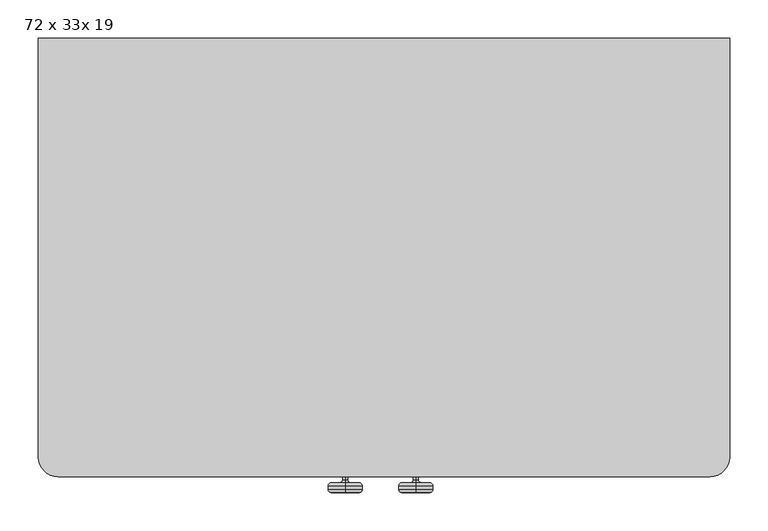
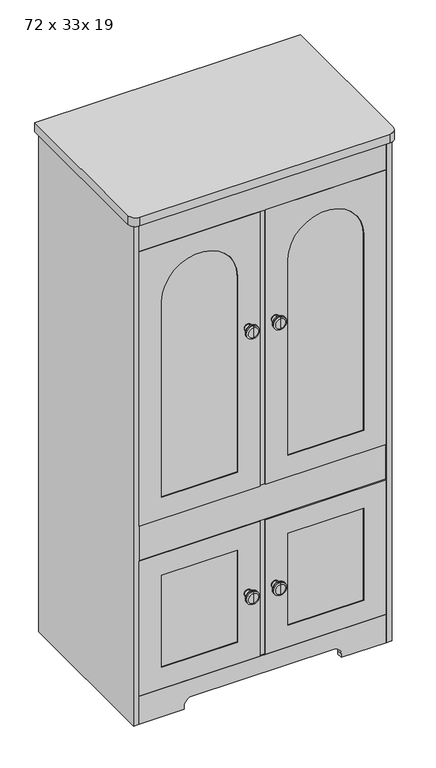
"""IFC4 building model written with IfcOpenShell, lengths in millimetres: furniture geometry, Simple_Armoire_7820 : 72 x 33x 19."""

from ifc_helpers import new_model, si_unit, point, frame, frame_2d, origin, origin_with_axes, place, context, project, spatial, polyline, circle_curve, ellipse_curve, trimmed, segment, composite_curve, outline, extrude, source, transform, mapped, element, save
from ifc_brep_helpers import plane_surface, cylinder_surface, revolved_surface, advanced_brep


def furniture_72_x_33x_19_4a222edf(model_context):
    return source(origin(), model_context, "Body", "SolidModel", [
        extrude(outline(polyline([(-343.02714, -542.925), (-85.5989531, -542.925), (-85.5989531, -555.625), (-343.02714, -555.625), (-343.02714, -542.925)])), frame((0.0, 0.0, 177.8), z_axis=(0.0, 0.0, 1.0), x_axis=(1.0, 0.0, 0.0)), (0.0, 0.0, 1.0), 330.2),
        extrude(outline(polyline([(85.5989531, -542.925), (342.77286, -542.925), (342.77286, -555.625), (85.5989531, -555.625), (85.5989531, -542.925)])), frame((0.0, 0.0, 177.8), z_axis=(0.0, 0.0, 1.0), x_axis=(1.0, 0.0, 0.0)), (0.0, 0.0, 1.0), 330.2),
        extrude(outline(composite_curve([segment(polyline([(787.4, -85.5989531), (1490.6625, -85.5989531)]), True, "CONTINUOUS"), segment(trimmed(circle_curve(frame_2d((1490.6625, -214.3130466)), 128.7140935), [point((1490.6625, -85.5989531))], [point((1490.6625, -343.02714))], False, "CARTESIAN"), True, "CONTINUOUS"), segment(polyline([(1490.6625, -343.02714), (787.4, -343.02714), (787.4, -85.5989531)]), True, "CONTINUOUS")], self_intersect=False)), frame((0.0, -555.625, 0.0), z_axis=(0.0, 1.0, 0.0), x_axis=(0.0, 0.0, 1.0)), (0.0, 0.0, 1.0), 12.7),
        extrude(outline(composite_curve([segment(polyline([(787.4, 342.77286), (1490.6625, 342.77286)]), True, "CONTINUOUS"), segment(trimmed(circle_curve(frame_2d((1490.6625, 214.1859065)), 128.5869534), [point((1490.6625, 342.77286))], [point((1490.6625, 85.5989531))], False, "CARTESIAN"), True, "CONTINUOUS"), segment(polyline([(1490.6625, 85.5989531), (787.4, 85.5989531), (787.4, 342.77286)]), True, "CONTINUOUS")], self_intersect=False)), frame((0.0, -555.625, 0.0), z_axis=(0.0, 1.0, 0.0), x_axis=(0.0, 0.0, 1.0)), (0.0, 0.0, 1.0), 12.7),
        advanced_brep(
        [(41.4010469, -566.7481306, 334.16875), (41.4010469, -566.7481306, 351.63125), (41.4010469, -562.7793806, 355.6), (41.4010469, -562.7793806, 330.2), (41.4010469, -566.7481306, 335.75625), (41.4010469, -566.7481306, 350.04375), (41.4010469, -570.7168806, 339.725), (41.4010469, -570.7168806, 346.075), (41.4010469, -575.4793806, 339.725), (41.4010469, -575.4793806, 346.075), (41.4010469, -579.4481306, 335.75625), (41.4010469, -579.4481306, 350.04375), (41.4010469, -579.4481306, 324.64375), (41.4010469, -579.4481306, 361.15625), (41.4010469, -583.4168806, 320.675), (41.4010469, -583.4168806, 365.125), (41.4010469, -588.1793806, 320.675), (41.4010469, -588.1793806, 365.125), (41.4010469, -592.1481306, 324.64375), (41.4010469, -592.1481306, 361.15625), (41.4010469, -592.1481306, 342.9), (41.4010469, -558.8, 330.2), (41.4010469, -558.8, 355.6), (41.4010469, -558.8, 342.9)],
        [
            (0, 1, circle_curve(frame((41.4010469, -566.7481306, 342.9), z_axis=(0.0, 1.0, 0.0), x_axis=(0.0, 0.0, 1.0)), 8.73125)),
            (1, 2, circle_curve(frame((41.4010469, -562.7793806, 351.63125), z_axis=(-1.0, 0.0, 0.0), x_axis=(0.0, 0.0, 1.0)), 3.96875)),
            (2, 3, circle_curve(frame((41.4010469, -562.7793806, 342.9), z_axis=(0.0, -1.0, 0.0), x_axis=(0.0, 0.0, 1.0)), 12.7)),
            (3, 0, circle_curve(frame((41.4010469, -562.7793806, 334.16875), z_axis=(-1.0, 0.0, 0.0), x_axis=(0.0, 0.0, -1.0)), 3.96875)),
            (1, 0, circle_curve(frame((41.4010469, -566.7481306, 342.9), z_axis=(0.0, 1.0, 0.0), x_axis=(0.0, 0.0, 1.0)), 8.73125)),
            (3, 2, circle_curve(frame((41.4010469, -562.7793806, 342.9), z_axis=(0.0, -1.0, 0.0), x_axis=(0.0, 0.0, 1.0)), 12.7)),
            (4, 5, circle_curve(frame((41.4010469, -566.7481306, 342.9), z_axis=(0.0, 1.0, 0.0), x_axis=(0.0, 0.0, 1.0)), 7.14375)),
            (5, 1),
            (0, 4),
            (5, 4, circle_curve(frame((41.4010469, -566.7481306, 342.9), z_axis=(0.0, 1.0, 0.0), x_axis=(0.0, 0.0, 1.0)), 7.14375)),
            (6, 7, circle_curve(frame((41.4010469, -570.7168806, 342.9), z_axis=(0.0, 1.0, 0.0), x_axis=(0.0, 0.0, 1.0)), 3.175)),
            (7, 5, circle_curve(frame((41.4010469, -570.7168806, 350.04375), z_axis=(1.0, 0.0, 0.0), x_axis=(0.0, 0.0, 1.0)), 3.96875)),
            (4, 6, circle_curve(frame((41.4010469, -570.7168806, 335.75625), z_axis=(1.0, 0.0, 0.0), x_axis=(0.0, 0.0, -1.0)), 3.96875)),
            (7, 6, circle_curve(frame((41.4010469, -570.7168806, 342.9), z_axis=(0.0, 1.0, 0.0), x_axis=(0.0, 0.0, 1.0)), 3.175)),
            (8, 9, circle_curve(frame((41.4010469, -575.4793806, 342.9), z_axis=(0.0, 1.0, 0.0), x_axis=(0.0, 0.0, 1.0)), 3.175)),
            (9, 7),
            (6, 8),
            (9, 8, circle_curve(frame((41.4010469, -575.4793806, 342.9), z_axis=(0.0, 1.0, 0.0), x_axis=(0.0, 0.0, 1.0)), 3.175)),
            (10, 11, circle_curve(frame((41.4010469, -579.4481306, 342.9), z_axis=(0.0, 1.0, 0.0), x_axis=(0.0, 0.0, 1.0)), 7.14375)),
            (11, 9, circle_curve(frame((41.4010469, -575.4793806, 350.04375), z_axis=(1.0, 0.0, 0.0), x_axis=(0.0, 0.0, 1.0)), 3.96875)),
            (8, 10, circle_curve(frame((41.4010469, -575.4793806, 335.75625), z_axis=(1.0, 0.0, 0.0), x_axis=(0.0, 0.0, -1.0)), 3.96875)),
            (11, 10, circle_curve(frame((41.4010469, -579.4481306, 342.9), z_axis=(0.0, 1.0, 0.0), x_axis=(0.0, 0.0, 1.0)), 7.14375)),
            (12, 13, circle_curve(frame((41.4010469, -579.4481306, 342.9), z_axis=(0.0, 1.0, 0.0), x_axis=(0.0, 0.0, 1.0)), 18.25625)),
            (13, 11),
            (10, 12),
            (13, 12, circle_curve(frame((41.4010469, -579.4481306, 342.9), z_axis=(0.0, 1.0, 0.0), x_axis=(0.0, 0.0, 1.0)), 18.25625)),
            (14, 15, circle_curve(frame((41.4010469, -583.4168806, 342.9), z_axis=(0.0, 1.0, 0.0), x_axis=(0.0, 0.0, 1.0)), 22.225)),
            (15, 13, circle_curve(frame((41.4010469, -583.4168806, 361.15625), z_axis=(-1.0, 0.0, 0.0), x_axis=(0.0, 0.0, 1.0)), 3.96875)),
            (12, 14, circle_curve(frame((41.4010469, -583.4168806, 324.64375), z_axis=(-1.0, 0.0, 0.0), x_axis=(0.0, 0.0, -1.0)), 3.96875)),
            (15, 14, circle_curve(frame((41.4010469, -583.4168806, 342.9), z_axis=(0.0, 1.0, 0.0), x_axis=(0.0, 0.0, 1.0)), 22.225)),
            (16, 17, circle_curve(frame((41.4010469, -588.1793806, 342.9), z_axis=(0.0, 1.0, 0.0), x_axis=(0.0, 0.0, 1.0)), 22.225)),
            (17, 15),
            (14, 16),
            (17, 16, circle_curve(frame((41.4010469, -588.1793806, 342.9), z_axis=(0.0, 1.0, 0.0), x_axis=(0.0, 0.0, 1.0)), 22.225)),
            (18, 19, circle_curve(frame((41.4010469, -592.1481306, 342.9), z_axis=(0.0, 1.0, 0.0), x_axis=(0.0, 0.0, 1.0)), 18.25625)),
            (19, 17, circle_curve(frame((41.4010469, -588.1793806, 361.15625), z_axis=(-1.0, 0.0, 0.0), x_axis=(0.0, 0.0, 1.0)), 3.96875)),
            (16, 18, circle_curve(frame((41.4010469, -588.1793806, 324.64375), z_axis=(-1.0, 0.0, 0.0), x_axis=(0.0, 0.0, -1.0)), 3.96875)),
            (19, 18, circle_curve(frame((41.4010469, -592.1481306, 342.9), z_axis=(0.0, 1.0, 0.0), x_axis=(0.0, 0.0, 1.0)), 18.25625)),
            (20, 19),
            (18, 20),
            (21, 22, circle_curve(frame((41.4010469, -558.8, 342.9), z_axis=(0.0, 1.0, 0.0), x_axis=(0.0, 0.0, 1.0)), 12.7)),
            (22, 23),
            (23, 21),
            (22, 21, circle_curve(frame((41.4010469, -558.8, 342.9), z_axis=(0.0, 1.0, 0.0), x_axis=(0.0, 0.0, 1.0)), 12.7)),
            (2, 22),
            (21, 3),
        ],
        [
            revolved_surface(trimmed(ellipse_curve(frame((41.4010469, -562.7793806, 351.63125), z_axis=(1.0, 0.0, 0.0), x_axis=(0.0, 0.0, 1.0)), 3.96875, 3.96875), [point((41.4010469, -562.7793806, 355.6))], [point((41.4010469, -566.7481306, 351.63125))], True, "CARTESIAN"), (41.4010469, -558.8, 342.9), (0.0, -1.0, 0.0)),
            plane_surface(frame((41.4010469, -566.7481306, 342.9), z_axis=(0.0, -1.0, 0.0), x_axis=(0.0, 0.0, 1.0))),
            revolved_surface(trimmed(ellipse_curve(frame((41.4010469, -570.7168806, 350.04375), z_axis=(-1.0, 0.0, 0.0), x_axis=(0.0, 0.0, 1.0)), 3.96875, 3.96875), [point((41.4010469, -566.7481306, 350.04375))], [point((41.4010469, -570.7168806, 346.075))], True, "CARTESIAN"), (41.4010469, -558.8, 342.9), (0.0, -1.0, 0.0)),
            cylinder_surface(frame((41.4010469, -558.8, 342.9), z_axis=(0.0, -1.0, 0.0), x_axis=(0.0, 0.0, 1.0)), 3.175),
            revolved_surface(trimmed(ellipse_curve(frame((41.4010469, -575.4793806, 350.04375), z_axis=(-1.0, 0.0, 0.0), x_axis=(0.0, 0.0, 1.0)), 3.96875, 3.96875), [point((41.4010469, -575.4793806, 346.075))], [point((41.4010469, -579.4481306, 350.04375))], True, "CARTESIAN"), (41.4010469, -558.8, 342.9), (0.0, -1.0, 0.0)),
            plane_surface(frame((41.4010469, -579.4481306, 342.9), z_axis=(0.0, 1.0, 0.0), x_axis=(0.0, 0.0, 1.0))),
            revolved_surface(trimmed(ellipse_curve(frame((41.4010469, -583.4168806, 361.15625), z_axis=(1.0, 0.0, 0.0), x_axis=(0.0, 0.0, 1.0)), 3.96875, 3.96875), [point((41.4010469, -579.4481306, 361.15625))], [point((41.4010469, -583.4168806, 365.125))], True, "CARTESIAN"), (41.4010469, -558.8, 342.9), (0.0, -1.0, 0.0)),
            cylinder_surface(frame((41.4010469, -558.8, 342.9), z_axis=(0.0, -1.0, 0.0), x_axis=(0.0, 0.0, 1.0)), 22.225),
            revolved_surface(trimmed(ellipse_curve(frame((41.4010469, -588.1793806, 361.15625), z_axis=(1.0, 0.0, 0.0), x_axis=(0.0, 0.0, 1.0)), 3.96875, 3.96875), [point((41.4010469, -588.1793806, 365.125))], [point((41.4010469, -592.1481306, 361.15625))], True, "CARTESIAN"), (41.4010469, -558.8, 342.9), (0.0, -1.0, 0.0)),
            plane_surface(frame((41.4010469, -592.1481306, 342.9), z_axis=(0.0, -1.0, 0.0), x_axis=(0.0, 0.0, 1.0))),
            plane_surface(frame((41.4010469, -558.8, 342.9), z_axis=(0.0, 1.0, 0.0), x_axis=(0.0, 0.0, 1.0))),
            cylinder_surface(frame((41.4010469, -558.8, 342.9), z_axis=(0.0, -1.0, 0.0), x_axis=(0.0, 0.0, 1.0)), 12.7),
        ],
        [
            (0, [[1, 2, 3, 4]]),
            (0, [[5, -4, 6, -2]]),
            (1, [[7, 8, -1, 9]]),
            (1, [[10, -9, -5, -8]]),
            (2, [[11, 12, -7, 13]]),
            (2, [[14, -13, -10, -12]]),
            (3, [[15, 16, -11, 17]]),
            (3, [[18, -17, -14, -16]]),
            (4, [[19, 20, -15, 21]]),
            (4, [[22, -21, -18, -20]]),
            (5, [[23, 24, -19, 25]]),
            (5, [[26, -25, -22, -24]]),
            (6, [[27, 28, -23, 29]]),
            (6, [[30, -29, -26, -28]]),
            (7, [[31, 32, -27, 33]]),
            (7, [[34, -33, -30, -32]]),
            (8, [[35, 36, -31, 37]]),
            (8, [[38, -37, -34, -36]]),
            (9, [[39, -35, 40]]),
            (9, [[-40, -38, -39]]),
            (10, [[41, 42, 43]]),
            (10, [[44, -43, -42]]),
            (11, [[-3, 45, -41, 46]]),
            (11, [[-6, -46, -44, -45]]),
        ],
    ),
        advanced_brep(
        [(-50.8, -566.7481306, 334.16875), (-50.8, -566.7481306, 351.63125), (-50.8, -562.7793806, 355.6), (-50.8, -562.7793806, 330.2), (-50.8, -566.7481306, 335.75625), (-50.8, -566.7481306, 350.04375), (-50.8, -570.7168806, 339.725), (-50.8, -570.7168806, 346.075), (-50.8, -575.4793806, 339.725), (-50.8, -575.4793806, 346.075), (-50.8, -579.4481306, 335.75625), (-50.8, -579.4481306, 350.04375), (-50.8, -579.4481306, 324.64375), (-50.8, -579.4481306, 361.15625), (-50.8, -583.4168806, 320.675), (-50.8, -583.4168806, 365.125), (-50.8, -588.1793806, 320.675), (-50.8, -588.1793806, 365.125), (-50.8, -592.1481306, 324.64375), (-50.8, -592.1481306, 361.15625), (-50.8, -592.1481306, 342.9), (-50.8, -558.8, 330.2), (-50.8, -558.8, 355.6), (-50.8, -558.8, 342.9)],
        [
            (0, 1, circle_curve(frame((-50.8, -566.7481306, 342.9), z_axis=(0.0, 1.0, 0.0), x_axis=(0.0, 0.0, 1.0)), 8.73125)),
            (1, 2, circle_curve(frame((-50.8, -562.7793806, 351.63125), z_axis=(-1.0, 0.0, 0.0), x_axis=(0.0, 0.0, 1.0)), 3.96875)),
            (2, 3, circle_curve(frame((-50.8, -562.7793806, 342.9), z_axis=(0.0, -1.0, 0.0), x_axis=(0.0, 0.0, 1.0)), 12.7)),
            (3, 0, circle_curve(frame((-50.8, -562.7793806, 334.16875), z_axis=(-1.0, 0.0, 0.0), x_axis=(0.0, 0.0, -1.0)), 3.96875)),
            (1, 0, circle_curve(frame((-50.8, -566.7481306, 342.9), z_axis=(0.0, 1.0, 0.0), x_axis=(0.0, 0.0, 1.0)), 8.73125)),
            (3, 2, circle_curve(frame((-50.8, -562.7793806, 342.9), z_axis=(0.0, -1.0, 0.0), x_axis=(0.0, 0.0, 1.0)), 12.7)),
            (4, 5, circle_curve(frame((-50.8, -566.7481306, 342.9), z_axis=(0.0, 1.0, 0.0), x_axis=(0.0, 0.0, 1.0)), 7.14375)),
            (5, 1),
            (0, 4),
            (5, 4, circle_curve(frame((-50.8, -566.7481306, 342.9), z_axis=(0.0, 1.0, 0.0), x_axis=(0.0, 0.0, 1.0)), 7.14375)),
            (6, 7, circle_curve(frame((-50.8, -570.7168806, 342.9), z_axis=(0.0, 1.0, 0.0), x_axis=(0.0, 0.0, 1.0)), 3.175)),
            (7, 5, circle_curve(frame((-50.8, -570.7168806, 350.04375), z_axis=(1.0, 0.0, 0.0), x_axis=(0.0, 0.0, 1.0)), 3.96875)),
            (4, 6, circle_curve(frame((-50.8, -570.7168806, 335.75625), z_axis=(1.0, 0.0, 0.0), x_axis=(0.0, 0.0, -1.0)), 3.96875)),
            (7, 6, circle_curve(frame((-50.8, -570.7168806, 342.9), z_axis=(0.0, 1.0, 0.0), x_axis=(0.0, 0.0, 1.0)), 3.175)),
            (8, 9, circle_curve(frame((-50.8, -575.4793806, 342.9), z_axis=(0.0, 1.0, 0.0), x_axis=(0.0, 0.0, 1.0)), 3.175)),
            (9, 7),
            (6, 8),
            (9, 8, circle_curve(frame((-50.8, -575.4793806, 342.9), z_axis=(0.0, 1.0, 0.0), x_axis=(0.0, 0.0, 1.0)), 3.175)),
            (10, 11, circle_curve(frame((-50.8, -579.4481306, 342.9), z_axis=(0.0, 1.0, 0.0), x_axis=(0.0, 0.0, 1.0)), 7.14375)),
            (11, 9, circle_curve(frame((-50.8, -575.4793806, 350.04375), z_axis=(1.0, 0.0, 0.0), x_axis=(0.0, 0.0, 1.0)), 3.96875)),
            (8, 10, circle_curve(frame((-50.8, -575.4793806, 335.75625), z_axis=(1.0, 0.0, 0.0), x_axis=(0.0, 0.0, -1.0)), 3.96875)),
            (11, 10, circle_curve(frame((-50.8, -579.4481306, 342.9), z_axis=(0.0, 1.0, 0.0), x_axis=(0.0, 0.0, 1.0)), 7.14375)),
            (12, 13, circle_curve(frame((-50.8, -579.4481306, 342.9), z_axis=(0.0, 1.0, 0.0), x_axis=(0.0, 0.0, 1.0)), 18.25625)),
            (13, 11),
            (10, 12),
            (13, 12, circle_curve(frame((-50.8, -579.4481306, 342.9), z_axis=(0.0, 1.0, 0.0), x_axis=(0.0, 0.0, 1.0)), 18.25625)),
            (14, 15, circle_curve(frame((-50.8, -583.4168806, 342.9), z_axis=(0.0, 1.0, 0.0), x_axis=(0.0, 0.0, 1.0)), 22.225)),
            (15, 13, circle_curve(frame((-50.8, -583.4168806, 361.15625), z_axis=(-1.0, 0.0, 0.0), x_axis=(0.0, 0.0, 1.0)), 3.96875)),
            (12, 14, circle_curve(frame((-50.8, -583.4168806, 324.64375), z_axis=(-1.0, 0.0, 0.0), x_axis=(0.0, 0.0, -1.0)), 3.96875)),
            (15, 14, circle_curve(frame((-50.8, -583.4168806, 342.9), z_axis=(0.0, 1.0, 0.0), x_axis=(0.0, 0.0, 1.0)), 22.225)),
            (16, 17, circle_curve(frame((-50.8, -588.1793806, 342.9), z_axis=(0.0, 1.0, 0.0), x_axis=(0.0, 0.0, 1.0)), 22.225)),
            (17, 15),
            (14, 16),
            (17, 16, circle_curve(frame((-50.8, -588.1793806, 342.9), z_axis=(0.0, 1.0, 0.0), x_axis=(0.0, 0.0, 1.0)), 22.225)),
            (18, 19, circle_curve(frame((-50.8, -592.1481306, 342.9), z_axis=(0.0, 1.0, 0.0), x_axis=(0.0, 0.0, 1.0)), 18.25625)),
            (19, 17, circle_curve(frame((-50.8, -588.1793806, 361.15625), z_axis=(-1.0, 0.0, 0.0), x_axis=(0.0, 0.0, 1.0)), 3.96875)),
            (16, 18, circle_curve(frame((-50.8, -588.1793806, 324.64375), z_axis=(-1.0, 0.0, 0.0), x_axis=(0.0, 0.0, -1.0)), 3.96875)),
            (19, 18, circle_curve(frame((-50.8, -592.1481306, 342.9), z_axis=(0.0, 1.0, 0.0), x_axis=(0.0, 0.0, 1.0)), 18.25625)),
            (20, 19),
            (18, 20),
            (21, 22, circle_curve(frame((-50.8, -558.8, 342.9), z_axis=(0.0, 1.0, 0.0), x_axis=(0.0, 0.0, 1.0)), 12.7)),
            (22, 23),
            (23, 21),
            (22, 21, circle_curve(frame((-50.8, -558.8, 342.9), z_axis=(0.0, 1.0, 0.0), x_axis=(0.0, 0.0, 1.0)), 12.7)),
            (2, 22),
            (21, 3),
        ],
        [
            revolved_surface(trimmed(ellipse_curve(frame((-50.8, -562.7793806, 351.63125), z_axis=(1.0, 0.0, 0.0), x_axis=(0.0, 0.0, 1.0)), 3.96875, 3.96875), [point((-50.8, -562.7793806, 355.6))], [point((-50.8, -566.7481306, 351.63125))], True, "CARTESIAN"), (-50.8, -558.8, 342.9), (0.0, -1.0, 0.0)),
            plane_surface(frame((-50.8, -566.7481306, 342.9), z_axis=(0.0, -1.0, 0.0), x_axis=(0.0, 0.0, 1.0))),
            revolved_surface(trimmed(ellipse_curve(frame((-50.8, -570.7168806, 350.04375), z_axis=(-1.0, 0.0, 0.0), x_axis=(0.0, 0.0, 1.0)), 3.96875, 3.96875), [point((-50.8, -566.7481306, 350.04375))], [point((-50.8, -570.7168806, 346.075))], True, "CARTESIAN"), (-50.8, -558.8, 342.9), (0.0, -1.0, 0.0)),
            cylinder_surface(frame((-50.8, -558.8, 342.9), z_axis=(0.0, -1.0, 0.0), x_axis=(0.0, 0.0, 1.0)), 3.175),
            revolved_surface(trimmed(ellipse_curve(frame((-50.8, -575.4793806, 350.04375), z_axis=(-1.0, 0.0, 0.0), x_axis=(0.0, 0.0, 1.0)), 3.96875, 3.96875), [point((-50.8, -575.4793806, 346.075))], [point((-50.8, -579.4481306, 350.04375))], True, "CARTESIAN"), (-50.8, -558.8, 342.9), (0.0, -1.0, 0.0)),
            plane_surface(frame((-50.8, -579.4481306, 342.9), z_axis=(0.0, 1.0, 0.0), x_axis=(0.0, 0.0, 1.0))),
            revolved_surface(trimmed(ellipse_curve(frame((-50.8, -583.4168806, 361.15625), z_axis=(1.0, 0.0, 0.0), x_axis=(0.0, 0.0, 1.0)), 3.96875, 3.96875), [point((-50.8, -579.4481306, 361.15625))], [point((-50.8, -583.4168806, 365.125))], True, "CARTESIAN"), (-50.8, -558.8, 342.9), (0.0, -1.0, 0.0)),
            cylinder_surface(frame((-50.8, -558.8, 342.9), z_axis=(0.0, -1.0, 0.0), x_axis=(0.0, 0.0, 1.0)), 22.225),
            revolved_surface(trimmed(ellipse_curve(frame((-50.8, -588.1793806, 361.15625), z_axis=(1.0, 0.0, 0.0), x_axis=(0.0, 0.0, 1.0)), 3.96875, 3.96875), [point((-50.8, -588.1793806, 365.125))], [point((-50.8, -592.1481306, 361.15625))], True, "CARTESIAN"), (-50.8, -558.8, 342.9), (0.0, -1.0, 0.0)),
            plane_surface(frame((-50.8, -592.1481306, 342.9), z_axis=(0.0, -1.0, 0.0), x_axis=(0.0, 0.0, 1.0))),
            plane_surface(frame((-50.8, -558.8, 342.9), z_axis=(0.0, 1.0, 0.0), x_axis=(0.0, 0.0, 1.0))),
            cylinder_surface(frame((-50.8, -558.8, 342.9), z_axis=(0.0, -1.0, 0.0), x_axis=(0.0, 0.0, 1.0)), 12.7),
        ],
        [
            (0, [[1, 2, 3, 4]]),
            (0, [[5, -4, 6, -2]]),
            (1, [[7, 8, -1, 9]]),
            (1, [[10, -9, -5, -8]]),
            (2, [[11, 12, -7, 13]]),
            (2, [[14, -13, -10, -12]]),
            (3, [[15, 16, -11, 17]]),
            (3, [[18, -17, -14, -16]]),
            (4, [[19, 20, -15, 21]]),
            (4, [[22, -21, -18, -20]]),
            (5, [[23, 24, -19, 25]]),
            (5, [[26, -25, -22, -24]]),
            (6, [[27, 28, -23, 29]]),
            (6, [[30, -29, -26, -28]]),
            (7, [[31, 32, -27, 33]]),
            (7, [[34, -33, -30, -32]]),
            (8, [[35, 36, -31, 37]]),
            (8, [[38, -37, -34, -36]]),
            (9, [[39, -35, 40]]),
            (9, [[-40, -38, -39]]),
            (10, [[41, 42, 43]]),
            (10, [[44, -43, -42]]),
            (11, [[-3, 45, -41, 46]]),
            (11, [[-6, -46, -44, -45]]),
        ],
    ),
        extrude(outline(polyline([(101.6, -9.3989531), (584.2, -9.3989531), (584.2, -419.22714), (101.6, -419.22714), (101.6, -9.3989531)]), holes=[polyline([(177.8, -85.5989531), (177.8, -343.02714), (508.0, -343.02714), (508.0, -85.5989531), (177.8, -85.5989531)])]), frame((0.0, -558.8, 0.0), z_axis=(0.0, 1.0, 0.0), x_axis=(0.0, 0.0, 1.0)), (0.0, 0.0, 1.0), 19.05),
        extrude(outline(polyline([(101.6, 418.97286), (584.2, 418.97286), (584.2, 9.3989531), (101.6, 9.3989531), (101.6, 418.97286)]), holes=[polyline([(177.8, 342.77286), (177.8, 85.5989531), (508.0, 85.5989531), (508.0, 342.77286), (177.8, 342.77286)])]), frame((0.0, -558.8, 0.0), z_axis=(0.0, 1.0, 0.0), x_axis=(0.0, 0.0, 1.0)), (0.0, 0.0, 1.0), 19.05),
        extrude(outline(polyline([(711.2, -9.3989531), (1695.45, -9.3989531), (1695.45, -419.22714), (711.2, -419.22714), (711.2, -9.3989531)]), holes=[composite_curve([segment(polyline([(787.4, -85.5989531), (787.4, -343.02714), (1490.6625, -343.02714)]), True, "CONTINUOUS"), segment(trimmed(circle_curve(frame_2d((1490.6625, -214.3130466)), 128.7140935), [point((1490.6625, -343.02714))], [point((1490.6625, -85.5989531))], True, "CARTESIAN"), True, "CONTINUOUS"), segment(polyline([(1490.6625, -85.5989531), (787.4, -85.5989531)]), True, "CONTINUOUS")], self_intersect=False)]), frame((0.0, -558.8, 0.0), z_axis=(0.0, 1.0, 0.0), x_axis=(0.0, 0.0, 1.0)), (0.0, 0.0, 1.0), 19.05),
        extrude(outline(polyline([(711.2, 418.97286), (1695.45, 418.97286), (1695.45, 9.3989531), (711.2, 9.3989531), (711.2, 418.97286)]), holes=[composite_curve([segment(polyline([(787.4, 342.77286), (787.4, 85.5989531), (1490.6625, 85.5989531)]), True, "CONTINUOUS"), segment(trimmed(circle_curve(frame_2d((1490.6625, 214.1859065)), 128.5869534), [point((1490.6625, 85.5989531))], [point((1490.6625, 342.77286))], True, "CARTESIAN"), True, "CONTINUOUS"), segment(polyline([(1490.6625, 342.77286), (787.4, 342.77286)]), True, "CONTINUOUS")], self_intersect=False)]), frame((0.0, -558.8, 0.0), z_axis=(0.0, 1.0, 0.0), x_axis=(0.0, 0.0, 1.0)), (0.0, 0.0, 1.0), 19.05),
        extrude(outline(polyline([(-9.3989531, -6.35), (9.3989531, -6.35), (9.3989531, -555.625), (-9.3989531, -555.625), (-9.3989531, -6.35)])), frame((0.0, 0.0, 711.2), z_axis=(0.0, 0.0, 1.0), x_axis=(1.0, 0.0, 0.0)), (0.0, 0.0, 1.0), 984.25),
        extrude(outline(polyline([(-9.3989531, -6.35), (9.3989531, -6.35), (9.3989531, -555.625), (-9.3989531, -555.625), (-9.3989531, -6.35)])), frame((0.0, 0.0, 101.6), z_axis=(0.0, 0.0, 1.0), x_axis=(1.0, 0.0, 0.0)), (0.0, 0.0, 1.0), 482.6),
        advanced_brep(
        [(41.4010469, -566.7481306, 1286.66875), (41.4010469, -566.7481306, 1304.13125), (41.4010469, -562.7793806, 1308.1), (41.4010469, -562.7793806, 1282.7), (41.4010469, -566.7481306, 1288.25625), (41.4010469, -566.7481306, 1302.54375), (41.4010469, -570.7168806, 1292.225), (41.4010469, -570.7168806, 1298.575), (41.4010469, -575.4793806, 1292.225), (41.4010469, -575.4793806, 1298.575), (41.4010469, -579.4481306, 1288.25625), (41.4010469, -579.4481306, 1302.54375), (41.4010469, -579.4481306, 1277.14375), (41.4010469, -579.4481306, 1313.65625), (41.4010469, -583.4168806, 1273.175), (41.4010469, -583.4168806, 1317.625), (41.4010469, -588.1793806, 1273.175), (41.4010469, -588.1793806, 1317.625), (41.4010469, -592.1481306, 1277.14375), (41.4010469, -592.1481306, 1313.65625), (41.4010469, -592.1481306, 1295.4), (41.4010469, -558.8, 1282.7), (41.4010469, -558.8, 1308.1), (41.4010469, -558.8, 1295.4)],
        [
            (0, 1, circle_curve(frame((41.4010469, -566.7481306, 1295.4), z_axis=(0.0, 1.0, 0.0), x_axis=(0.0, 0.0, 1.0)), 8.73125)),
            (1, 2, circle_curve(frame((41.4010469, -562.7793806, 1304.13125), z_axis=(-1.0, 0.0, 0.0), x_axis=(0.0, 0.0, 1.0)), 3.96875)),
            (2, 3, circle_curve(frame((41.4010469, -562.7793806, 1295.4), z_axis=(0.0, -1.0, 0.0), x_axis=(0.0, 0.0, 1.0)), 12.7)),
            (3, 0, circle_curve(frame((41.4010469, -562.7793806, 1286.66875), z_axis=(-1.0, 0.0, 0.0), x_axis=(0.0, 0.0, -1.0)), 3.96875)),
            (1, 0, circle_curve(frame((41.4010469, -566.7481306, 1295.4), z_axis=(0.0, 1.0, 0.0), x_axis=(0.0, 0.0, 1.0)), 8.73125)),
            (3, 2, circle_curve(frame((41.4010469, -562.7793806, 1295.4), z_axis=(0.0, -1.0, 0.0), x_axis=(0.0, 0.0, 1.0)), 12.7)),
            (4, 5, circle_curve(frame((41.4010469, -566.7481306, 1295.4), z_axis=(0.0, 1.0, 0.0), x_axis=(0.0, 0.0, 1.0)), 7.14375)),
            (5, 1),
            (0, 4),
            (5, 4, circle_curve(frame((41.4010469, -566.7481306, 1295.4), z_axis=(0.0, 1.0, 0.0), x_axis=(0.0, 0.0, 1.0)), 7.14375)),
            (6, 7, circle_curve(frame((41.4010469, -570.7168806, 1295.4), z_axis=(0.0, 1.0, 0.0), x_axis=(0.0, 0.0, 1.0)), 3.175)),
            (7, 5, circle_curve(frame((41.4010469, -570.7168806, 1302.54375), z_axis=(1.0, 0.0, 0.0), x_axis=(0.0, 0.0, 1.0)), 3.96875)),
            (4, 6, circle_curve(frame((41.4010469, -570.7168806, 1288.25625), z_axis=(1.0, 0.0, 0.0), x_axis=(0.0, 0.0, -1.0)), 3.96875)),
            (7, 6, circle_curve(frame((41.4010469, -570.7168806, 1295.4), z_axis=(0.0, 1.0, 0.0), x_axis=(0.0, 0.0, 1.0)), 3.175)),
            (8, 9, circle_curve(frame((41.4010469, -575.4793806, 1295.4), z_axis=(0.0, 1.0, 0.0), x_axis=(0.0, 0.0, 1.0)), 3.175)),
            (9, 7),
            (6, 8),
            (9, 8, circle_curve(frame((41.4010469, -575.4793806, 1295.4), z_axis=(0.0, 1.0, 0.0), x_axis=(0.0, 0.0, 1.0)), 3.175)),
            (10, 11, circle_curve(frame((41.4010469, -579.4481306, 1295.4), z_axis=(0.0, 1.0, 0.0), x_axis=(0.0, 0.0, 1.0)), 7.14375)),
            (11, 9, circle_curve(frame((41.4010469, -575.4793806, 1302.54375), z_axis=(1.0, 0.0, 0.0), x_axis=(0.0, 0.0, 1.0)), 3.96875)),
            (8, 10, circle_curve(frame((41.4010469, -575.4793806, 1288.25625), z_axis=(1.0, 0.0, 0.0), x_axis=(0.0, 0.0, -1.0)), 3.96875)),
            (11, 10, circle_curve(frame((41.4010469, -579.4481306, 1295.4), z_axis=(0.0, 1.0, 0.0), x_axis=(0.0, 0.0, 1.0)), 7.14375)),
            (12, 13, circle_curve(frame((41.4010469, -579.4481306, 1295.4), z_axis=(0.0, 1.0, 0.0), x_axis=(0.0, 0.0, 1.0)), 18.25625)),
            (13, 11),
            (10, 12),
            (13, 12, circle_curve(frame((41.4010469, -579.4481306, 1295.4), z_axis=(0.0, 1.0, 0.0), x_axis=(0.0, 0.0, 1.0)), 18.25625)),
            (14, 15, circle_curve(frame((41.4010469, -583.4168806, 1295.4), z_axis=(0.0, 1.0, 0.0), x_axis=(0.0, 0.0, 1.0)), 22.225)),
            (15, 13, circle_curve(frame((41.4010469, -583.4168806, 1313.65625), z_axis=(-1.0, 0.0, 0.0), x_axis=(0.0, 0.0, 1.0)), 3.96875)),
            (12, 14, circle_curve(frame((41.4010469, -583.4168806, 1277.14375), z_axis=(-1.0, 0.0, 0.0), x_axis=(0.0, 0.0, -1.0)), 3.96875)),
            (15, 14, circle_curve(frame((41.4010469, -583.4168806, 1295.4), z_axis=(0.0, 1.0, 0.0), x_axis=(0.0, 0.0, 1.0)), 22.225)),
            (16, 17, circle_curve(frame((41.4010469, -588.1793806, 1295.4), z_axis=(0.0, 1.0, 0.0), x_axis=(0.0, 0.0, 1.0)), 22.225)),
            (17, 15),
            (14, 16),
            (17, 16, circle_curve(frame((41.4010469, -588.1793806, 1295.4), z_axis=(0.0, 1.0, 0.0), x_axis=(0.0, 0.0, 1.0)), 22.225)),
            (18, 19, circle_curve(frame((41.4010469, -592.1481306, 1295.4), z_axis=(0.0, 1.0, 0.0), x_axis=(0.0, 0.0, 1.0)), 18.25625)),
            (19, 17, circle_curve(frame((41.4010469, -588.1793806, 1313.65625), z_axis=(-1.0, 0.0, 0.0), x_axis=(0.0, 0.0, 1.0)), 3.96875)),
            (16, 18, circle_curve(frame((41.4010469, -588.1793806, 1277.14375), z_axis=(-1.0, 0.0, 0.0), x_axis=(0.0, 0.0, -1.0)), 3.96875)),
            (19, 18, circle_curve(frame((41.4010469, -592.1481306, 1295.4), z_axis=(0.0, 1.0, 0.0), x_axis=(0.0, 0.0, 1.0)), 18.25625)),
            (20, 19),
            (18, 20),
            (21, 22, circle_curve(frame((41.4010469, -558.8, 1295.4), z_axis=(0.0, 1.0, 0.0), x_axis=(0.0, 0.0, 1.0)), 12.7)),
            (22, 23),
            (23, 21),
            (22, 21, circle_curve(frame((41.4010469, -558.8, 1295.4), z_axis=(0.0, 1.0, 0.0), x_axis=(0.0, 0.0, 1.0)), 12.7)),
            (2, 22),
            (21, 3),
        ],
        [
            revolved_surface(trimmed(ellipse_curve(frame((41.4010469, -562.7793806, 1304.13125), z_axis=(1.0, 0.0, 0.0), x_axis=(0.0, 0.0, 1.0)), 3.96875, 3.96875), [point((41.4010469, -562.7793806, 1308.1))], [point((41.4010469, -566.7481306, 1304.13125))], True, "CARTESIAN"), (41.4010469, -558.8, 1295.4), (0.0, -1.0, 0.0)),
            plane_surface(frame((41.4010469, -566.7481306, 1295.4), z_axis=(0.0, -1.0, 0.0), x_axis=(0.0, 0.0, 1.0))),
            revolved_surface(trimmed(ellipse_curve(frame((41.4010469, -570.7168806, 1302.54375), z_axis=(-1.0, 0.0, 0.0), x_axis=(0.0, 0.0, 1.0)), 3.96875, 3.96875), [point((41.4010469, -566.7481306, 1302.54375))], [point((41.4010469, -570.7168806, 1298.575))], True, "CARTESIAN"), (41.4010469, -558.8, 1295.4), (0.0, -1.0, 0.0)),
            cylinder_surface(frame((41.4010469, -558.8, 1295.4), z_axis=(0.0, -1.0, 0.0), x_axis=(0.0, 0.0, 1.0)), 3.175),
            revolved_surface(trimmed(ellipse_curve(frame((41.4010469, -575.4793806, 1302.54375), z_axis=(-1.0, 0.0, 0.0), x_axis=(0.0, 0.0, 1.0)), 3.96875, 3.96875), [point((41.4010469, -575.4793806, 1298.575))], [point((41.4010469, -579.4481306, 1302.54375))], True, "CARTESIAN"), (41.4010469, -558.8, 1295.4), (0.0, -1.0, 0.0)),
            plane_surface(frame((41.4010469, -579.4481306, 1295.4), z_axis=(0.0, 1.0, 0.0), x_axis=(0.0, 0.0, 1.0))),
            revolved_surface(trimmed(ellipse_curve(frame((41.4010469, -583.4168806, 1313.65625), z_axis=(1.0, 0.0, 0.0), x_axis=(0.0, 0.0, 1.0)), 3.96875, 3.96875), [point((41.4010469, -579.4481306, 1313.65625))], [point((41.4010469, -583.4168806, 1317.625))], True, "CARTESIAN"), (41.4010469, -558.8, 1295.4), (0.0, -1.0, 0.0)),
            cylinder_surface(frame((41.4010469, -558.8, 1295.4), z_axis=(0.0, -1.0, 0.0), x_axis=(0.0, 0.0, 1.0)), 22.225),
            revolved_surface(trimmed(ellipse_curve(frame((41.4010469, -588.1793806, 1313.65625), z_axis=(1.0, 0.0, 0.0), x_axis=(0.0, 0.0, 1.0)), 3.96875, 3.96875), [point((41.4010469, -588.1793806, 1317.625))], [point((41.4010469, -592.1481306, 1313.65625))], True, "CARTESIAN"), (41.4010469, -558.8, 1295.4), (0.0, -1.0, 0.0)),
            plane_surface(frame((41.4010469, -592.1481306, 1295.4), z_axis=(0.0, -1.0, 0.0), x_axis=(0.0, 0.0, 1.0))),
            plane_surface(frame((41.4010469, -558.8, 1295.4), z_axis=(0.0, 1.0, 0.0), x_axis=(0.0, 0.0, 1.0))),
            cylinder_surface(frame((41.4010469, -558.8, 1295.4), z_axis=(0.0, -1.0, 0.0), x_axis=(0.0, 0.0, 1.0)), 12.7),
        ],
        [
            (0, [[1, 2, 3, 4]]),
            (0, [[5, -4, 6, -2]]),
            (1, [[7, 8, -1, 9]]),
            (1, [[10, -9, -5, -8]]),
            (2, [[11, 12, -7, 13]]),
            (2, [[14, -13, -10, -12]]),
            (3, [[15, 16, -11, 17]]),
            (3, [[18, -17, -14, -16]]),
            (4, [[19, 20, -15, 21]]),
            (4, [[22, -21, -18, -20]]),
            (5, [[23, 24, -19, 25]]),
            (5, [[26, -25, -22, -24]]),
            (6, [[27, 28, -23, 29]]),
            (6, [[30, -29, -26, -28]]),
            (7, [[31, 32, -27, 33]]),
            (7, [[34, -33, -30, -32]]),
            (8, [[35, 36, -31, 37]]),
            (8, [[38, -37, -34, -36]]),
            (9, [[39, -35, 40]]),
            (9, [[-40, -38, -39]]),
            (10, [[41, 42, 43]]),
            (10, [[44, -43, -42]]),
            (11, [[-3, 45, -41, 46]]),
            (11, [[-6, -46, -44, -45]]),
        ],
    ),
        advanced_brep(
        [(-50.8, -566.7481306, 1286.66875), (-50.8, -566.7481306, 1304.13125), (-50.8, -562.7793806, 1308.1), (-50.8, -562.7793806, 1282.7), (-50.8, -566.7481306, 1288.25625), (-50.8, -566.7481306, 1302.54375), (-50.8, -570.7168806, 1292.225), (-50.8, -570.7168806, 1298.575), (-50.8, -575.4793806, 1292.225), (-50.8, -575.4793806, 1298.575), (-50.8, -579.4481306, 1288.25625), (-50.8, -579.4481306, 1302.54375), (-50.8, -579.4481306, 1277.14375), (-50.8, -579.4481306, 1313.65625), (-50.8, -583.4168806, 1273.175), (-50.8, -583.4168806, 1317.625), (-50.8, -588.1793806, 1273.175), (-50.8, -588.1793806, 1317.625), (-50.8, -592.1481306, 1277.14375), (-50.8, -592.1481306, 1313.65625), (-50.8, -592.1481306, 1295.4), (-50.8, -558.8, 1282.7), (-50.8, -558.8, 1308.1), (-50.8, -558.8, 1295.4)],
        [
            (0, 1, circle_curve(frame((-50.8, -566.7481306, 1295.4), z_axis=(0.0, 1.0, 0.0), x_axis=(0.0, 0.0, 1.0)), 8.73125)),
            (1, 2, circle_curve(frame((-50.8, -562.7793806, 1304.13125), z_axis=(-1.0, 0.0, 0.0), x_axis=(0.0, 0.0, 1.0)), 3.96875)),
            (2, 3, circle_curve(frame((-50.8, -562.7793806, 1295.4), z_axis=(0.0, -1.0, 0.0), x_axis=(0.0, 0.0, 1.0)), 12.7)),
            (3, 0, circle_curve(frame((-50.8, -562.7793806, 1286.66875), z_axis=(-1.0, 0.0, 0.0), x_axis=(0.0, 0.0, -1.0)), 3.96875)),
            (1, 0, circle_curve(frame((-50.8, -566.7481306, 1295.4), z_axis=(0.0, 1.0, 0.0), x_axis=(0.0, 0.0, 1.0)), 8.73125)),
            (3, 2, circle_curve(frame((-50.8, -562.7793806, 1295.4), z_axis=(0.0, -1.0, 0.0), x_axis=(0.0, 0.0, 1.0)), 12.7)),
            (4, 5, circle_curve(frame((-50.8, -566.7481306, 1295.4), z_axis=(0.0, 1.0, 0.0), x_axis=(0.0, 0.0, 1.0)), 7.14375)),
            (5, 1),
            (0, 4),
            (5, 4, circle_curve(frame((-50.8, -566.7481306, 1295.4), z_axis=(0.0, 1.0, 0.0), x_axis=(0.0, 0.0, 1.0)), 7.14375)),
            (6, 7, circle_curve(frame((-50.8, -570.7168806, 1295.4), z_axis=(0.0, 1.0, 0.0), x_axis=(0.0, 0.0, 1.0)), 3.175)),
            (7, 5, circle_curve(frame((-50.8, -570.7168806, 1302.54375), z_axis=(1.0, 0.0, 0.0), x_axis=(0.0, 0.0, 1.0)), 3.96875)),
            (4, 6, circle_curve(frame((-50.8, -570.7168806, 1288.25625), z_axis=(1.0, 0.0, 0.0), x_axis=(0.0, 0.0, -1.0)), 3.96875)),
            (7, 6, circle_curve(frame((-50.8, -570.7168806, 1295.4), z_axis=(0.0, 1.0, 0.0), x_axis=(0.0, 0.0, 1.0)), 3.175)),
            (8, 9, circle_curve(frame((-50.8, -575.4793806, 1295.4), z_axis=(0.0, 1.0, 0.0), x_axis=(0.0, 0.0, 1.0)), 3.175)),
            (9, 7),
            (6, 8),
            (9, 8, circle_curve(frame((-50.8, -575.4793806, 1295.4), z_axis=(0.0, 1.0, 0.0), x_axis=(0.0, 0.0, 1.0)), 3.175)),
            (10, 11, circle_curve(frame((-50.8, -579.4481306, 1295.4), z_axis=(0.0, 1.0, 0.0), x_axis=(0.0, 0.0, 1.0)), 7.14375)),
            (11, 9, circle_curve(frame((-50.8, -575.4793806, 1302.54375), z_axis=(1.0, 0.0, 0.0), x_axis=(0.0, 0.0, 1.0)), 3.96875)),
            (8, 10, circle_curve(frame((-50.8, -575.4793806, 1288.25625), z_axis=(1.0, 0.0, 0.0), x_axis=(0.0, 0.0, -1.0)), 3.96875)),
            (11, 10, circle_curve(frame((-50.8, -579.4481306, 1295.4), z_axis=(0.0, 1.0, 0.0), x_axis=(0.0, 0.0, 1.0)), 7.14375)),
            (12, 13, circle_curve(frame((-50.8, -579.4481306, 1295.4), z_axis=(0.0, 1.0, 0.0), x_axis=(0.0, 0.0, 1.0)), 18.25625)),
            (13, 11),
            (10, 12),
            (13, 12, circle_curve(frame((-50.8, -579.4481306, 1295.4), z_axis=(0.0, 1.0, 0.0), x_axis=(0.0, 0.0, 1.0)), 18.25625)),
            (14, 15, circle_curve(frame((-50.8, -583.4168806, 1295.4), z_axis=(0.0, 1.0, 0.0), x_axis=(0.0, 0.0, 1.0)), 22.225)),
            (15, 13, circle_curve(frame((-50.8, -583.4168806, 1313.65625), z_axis=(-1.0, 0.0, 0.0), x_axis=(0.0, 0.0, 1.0)), 3.96875)),
            (12, 14, circle_curve(frame((-50.8, -583.4168806, 1277.14375), z_axis=(-1.0, 0.0, 0.0), x_axis=(0.0, 0.0, -1.0)), 3.96875)),
            (15, 14, circle_curve(frame((-50.8, -583.4168806, 1295.4), z_axis=(0.0, 1.0, 0.0), x_axis=(0.0, 0.0, 1.0)), 22.225)),
            (16, 17, circle_curve(frame((-50.8, -588.1793806, 1295.4), z_axis=(0.0, 1.0, 0.0), x_axis=(0.0, 0.0, 1.0)), 22.225)),
            (17, 15),
            (14, 16),
            (17, 16, circle_curve(frame((-50.8, -588.1793806, 1295.4), z_axis=(0.0, 1.0, 0.0), x_axis=(0.0, 0.0, 1.0)), 22.225)),
            (18, 19, circle_curve(frame((-50.8, -592.1481306, 1295.4), z_axis=(0.0, 1.0, 0.0), x_axis=(0.0, 0.0, 1.0)), 18.25625)),
            (19, 17, circle_curve(frame((-50.8, -588.1793806, 1313.65625), z_axis=(-1.0, 0.0, 0.0), x_axis=(0.0, 0.0, 1.0)), 3.96875)),
            (16, 18, circle_curve(frame((-50.8, -588.1793806, 1277.14375), z_axis=(-1.0, 0.0, 0.0), x_axis=(0.0, 0.0, -1.0)), 3.96875)),
            (19, 18, circle_curve(frame((-50.8, -592.1481306, 1295.4), z_axis=(0.0, 1.0, 0.0), x_axis=(0.0, 0.0, 1.0)), 18.25625)),
            (20, 19),
            (18, 20),
            (21, 22, circle_curve(frame((-50.8, -558.8, 1295.4), z_axis=(0.0, 1.0, 0.0), x_axis=(0.0, 0.0, 1.0)), 12.7)),
            (22, 23),
            (23, 21),
            (22, 21, circle_curve(frame((-50.8, -558.8, 1295.4), z_axis=(0.0, 1.0, 0.0), x_axis=(0.0, 0.0, 1.0)), 12.7)),
            (2, 22),
            (21, 3),
        ],
        [
            revolved_surface(trimmed(ellipse_curve(frame((-50.8, -562.7793806, 1304.13125), z_axis=(1.0, 0.0, 0.0), x_axis=(0.0, 0.0, 1.0)), 3.96875, 3.96875), [point((-50.8, -562.7793806, 1308.1))], [point((-50.8, -566.7481306, 1304.13125))], True, "CARTESIAN"), (-50.8, -558.8, 1295.4), (0.0, -1.0, 0.0)),
            plane_surface(frame((-50.8, -566.7481306, 1295.4), z_axis=(0.0, -1.0, 0.0), x_axis=(0.0, 0.0, 1.0))),
            revolved_surface(trimmed(ellipse_curve(frame((-50.8, -570.7168806, 1302.54375), z_axis=(-1.0, 0.0, 0.0), x_axis=(0.0, 0.0, 1.0)), 3.96875, 3.96875), [point((-50.8, -566.7481306, 1302.54375))], [point((-50.8, -570.7168806, 1298.575))], True, "CARTESIAN"), (-50.8, -558.8, 1295.4), (0.0, -1.0, 0.0)),
            cylinder_surface(frame((-50.8, -558.8, 1295.4), z_axis=(0.0, -1.0, 0.0), x_axis=(0.0, 0.0, 1.0)), 3.175),
            revolved_surface(trimmed(ellipse_curve(frame((-50.8, -575.4793806, 1302.54375), z_axis=(-1.0, 0.0, 0.0), x_axis=(0.0, 0.0, 1.0)), 3.96875, 3.96875), [point((-50.8, -575.4793806, 1298.575))], [point((-50.8, -579.4481306, 1302.54375))], True, "CARTESIAN"), (-50.8, -558.8, 1295.4), (0.0, -1.0, 0.0)),
            plane_surface(frame((-50.8, -579.4481306, 1295.4), z_axis=(0.0, 1.0, 0.0), x_axis=(0.0, 0.0, 1.0))),
            revolved_surface(trimmed(ellipse_curve(frame((-50.8, -583.4168806, 1313.65625), z_axis=(1.0, 0.0, 0.0), x_axis=(0.0, 0.0, 1.0)), 3.96875, 3.96875), [point((-50.8, -579.4481306, 1313.65625))], [point((-50.8, -583.4168806, 1317.625))], True, "CARTESIAN"), (-50.8, -558.8, 1295.4), (0.0, -1.0, 0.0)),
            cylinder_surface(frame((-50.8, -558.8, 1295.4), z_axis=(0.0, -1.0, 0.0), x_axis=(0.0, 0.0, 1.0)), 22.225),
            revolved_surface(trimmed(ellipse_curve(frame((-50.8, -588.1793806, 1313.65625), z_axis=(1.0, 0.0, 0.0), x_axis=(0.0, 0.0, 1.0)), 3.96875, 3.96875), [point((-50.8, -588.1793806, 1317.625))], [point((-50.8, -592.1481306, 1313.65625))], True, "CARTESIAN"), (-50.8, -558.8, 1295.4), (0.0, -1.0, 0.0)),
            plane_surface(frame((-50.8, -592.1481306, 1295.4), z_axis=(0.0, -1.0, 0.0), x_axis=(0.0, 0.0, 1.0))),
            plane_surface(frame((-50.8, -558.8, 1295.4), z_axis=(0.0, 1.0, 0.0), x_axis=(0.0, 0.0, 1.0))),
            cylinder_surface(frame((-50.8, -558.8, 1295.4), z_axis=(0.0, -1.0, 0.0), x_axis=(0.0, 0.0, 1.0)), 12.7),
        ],
        [
            (0, [[1, 2, 3, 4]]),
            (0, [[5, -4, 6, -2]]),
            (1, [[7, 8, -1, 9]]),
            (1, [[10, -9, -5, -8]]),
            (2, [[11, 12, -7, 13]]),
            (2, [[14, -13, -10, -12]]),
            (3, [[15, 16, -11, 17]]),
            (3, [[18, -17, -14, -16]]),
            (4, [[19, 20, -15, 21]]),
            (4, [[22, -21, -18, -20]]),
            (5, [[23, 24, -19, 25]]),
            (5, [[26, -25, -22, -24]]),
            (6, [[27, 28, -23, 29]]),
            (6, [[30, -29, -26, -28]]),
            (7, [[31, 32, -27, 33]]),
            (7, [[34, -33, -30, -32]]),
            (8, [[35, 36, -31, 37]]),
            (8, [[38, -37, -34, -36]]),
            (9, [[39, -35, 40]]),
            (9, [[-40, -38, -39]]),
            (10, [[41, 42, 43]]),
            (10, [[44, -43, -42]]),
            (11, [[-3, 45, -41, 46]]),
            (11, [[-6, -46, -44, -45]]),
        ],
    ),
        extrude(outline(polyline([(-419.22714, -536.575), (418.97286, -536.575), (418.97286, -555.625), (-419.22714, -555.625), (-419.22714, -536.575)])), frame((0.0, 0.0, 584.2), z_axis=(0.0, 0.0, 1.0), x_axis=(1.0, 0.0, 0.0)), (0.0, 0.0, 1.0), 127.0),
        extrude(outline(polyline([(418.97286, -6.35), (-419.22714, -6.35), (-419.22714, 0.0), (418.97286, 0.0), (418.97286, -6.35)])), frame((0.0, 0.0, 38.1), z_axis=(0.0, 0.0, 1.0), x_axis=(1.0, 0.0, 0.0)), (0.0, 0.0, 1.0), 1758.95),
        extrude(outline(composite_curve([segment(polyline([(425.32286, -571.5), (-425.57714, -571.5)]), True, "CONTINUOUS"), segment(trimmed(circle_curve(frame_2d((-425.57714, -546.1)), 25.4), [point((-425.57714, -571.5))], [point((-450.97714, -546.1))], False, "CARTESIAN"), True, "CONTINUOUS"), segment(polyline([(-450.97714, -546.1), (-450.97714, 0.0), (450.72286, 0.0), (450.72286, -546.1)]), True, "CONTINUOUS"), segment(trimmed(circle_curve(frame_2d((425.32286, -546.1)), 25.4), [point((450.72286, -546.1))], [point((425.32286, -571.5))], False, "CARTESIAN"), True, "CONTINUOUS")], self_intersect=False)), frame((0.0, 0.0, 1797.05), z_axis=(0.0, 0.0, 1.0), x_axis=(1.0, 0.0, 0.0)), (0.0, 0.0, 1.0), 31.75),
        extrude(outline(composite_curve([segment(polyline([(0.0, 418.97286), (101.6, 418.97286), (101.6, -419.22714), (0.0, -419.22714), (0.0, -266.82714), (12.7, -266.82714)]), True, "CONTINUOUS"), segment(trimmed(circle_curve(frame_2d((12.7, -241.42714)), 25.4), [point((12.7, -266.82714))], [point((38.1, -241.42714))], True, "CARTESIAN"), True, "CONTINUOUS"), segment(polyline([(38.1, -241.42714), (38.1, 241.17286)]), True, "CONTINUOUS"), segment(trimmed(circle_curve(frame_2d((12.7, 241.17286)), 25.4), [point((38.1, 241.17286))], [point((12.7, 266.57286))], True, "CARTESIAN"), True, "CONTINUOUS"), segment(polyline([(12.7, 266.57286), (0.0, 266.57286), (0.0, 418.97286)]), True, "CONTINUOUS")], self_intersect=False)), frame((0.0, -558.8, 0.0), z_axis=(0.0, 1.0, 0.0), x_axis=(0.0, 0.0, 1.0)), (0.0, 0.0, 1.0), 19.05),
        extrude(outline(polyline([(-419.22714, -539.75), (418.97286, -539.75), (418.97286, -558.8), (-419.22714, -558.8), (-419.22714, -539.75)])), frame((0.0, 0.0, 1695.45), z_axis=(0.0, 0.0, 1.0), x_axis=(1.0, 0.0, 0.0)), (0.0, 0.0, 1.0), 101.6),
        extrude(outline(composite_curve([segment(polyline([(0.0, 1797.05), (0.0, 0.0), (-127.0, 0.0), (-127.0, 12.7)]), True, "CONTINUOUS"), segment(trimmed(circle_curve(frame_2d((-152.4, 12.7)), 25.4), [point((-127.0, 12.7))], [point((-152.4, 38.1))], True, "CARTESIAN"), True, "CONTINUOUS"), segment(polyline([(-152.4, 38.1), (-406.4, 38.1)]), True, "CONTINUOUS"), segment(trimmed(circle_curve(frame_2d((-406.4, 12.7)), 25.4), [point((-406.4, 38.1))], [point((-431.8, 12.7))], True, "CARTESIAN"), True, "CONTINUOUS"), segment(polyline([(-431.8, 12.7), (-431.8, 0.0), (-558.8, 0.0), (-558.8, 1797.05), (0.0, 1797.05)]), True, "CONTINUOUS")], self_intersect=False)), frame((418.97286, 0.0, 0.0), z_axis=(1.0, 0.0, 0.0), x_axis=(0.0, 1.0, 0.0)), (0.0, 0.0, 1.0), 19.05),
        extrude(outline(polyline([(-419.22714, 0.0), (-419.22714, -558.8), (-438.27714, -558.8), (-438.27714, 0.0), (-419.22714, 0.0)])), origin_with_axes(), (0.0, 0.0, 1.0), 1797.05),
    ])


if __name__ == "__main__":
    model = new_model("IFC4")
    model_context = context("Model", 3, world=origin())
    ifc_project = project(units=[si_unit("LENGTHUNIT", "METRE", prefix="MILLI")], contexts=[model_context])
    site = spatial("IfcSite", under=ifc_project)
    building = spatial("IfcBuilding", under=site)
    placement = place(None, origin())
    furniture_72_x_33x_19_shape = furniture_72_x_33x_19_4a222edf(model_context)
    element("IfcFurniture", 1, ObjectType="Simple_Armoire_7820 : 72 x 33x 19", at=placement, inside=building, context=model_context, shape_type="MappedRepresentation", body=[
        mapped(furniture_72_x_33x_19_shape, transform((0.0, 0.0, 0.0), x_axis=(1.0, 0.0, 0.0), y_axis=(0.0, 1.0, 0.0), z_axis=(0.0, 0.0, 1.0))),
    ])
    save(model, "model.ifc")
